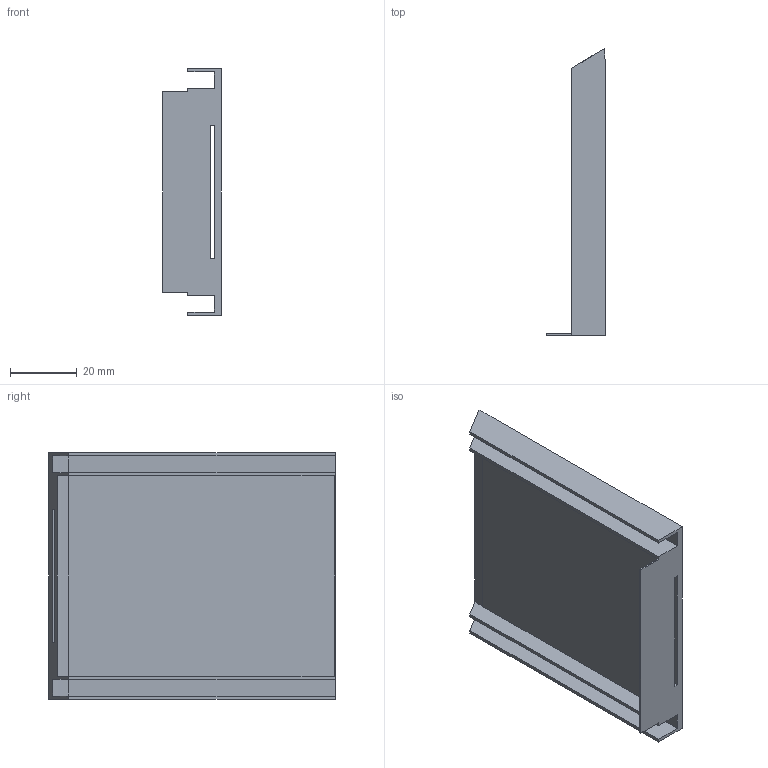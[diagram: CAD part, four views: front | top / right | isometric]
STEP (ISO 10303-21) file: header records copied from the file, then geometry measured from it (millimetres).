
FILE_DESCRIPTION(('STEP AP203'), '1');
FILE_NAME('ðåçîíàòîð 6', '', ('UNSPECIFIED'), ('UNSPECIFIED'), 'ASCON STEP Converter 1.3', 'ASCON Math Kernel', '');
FILE_SCHEMA(('CONFIG_CONTROL_DESIGN'));
Length unit declared in the file: millimetre
Bounding box: 17.5 x 85.96 x 74 mm (x, y, z)
Volume: 24140.5 mm3; surface area: 26845 mm2
Topology: 1 solids, 1 shells, 32 faces, 88 edges, 58 vertices
Faces by surface type: plane 26, cylinder 6
Entity records: 1312 total; most frequent: CARTESIAN_POINT 179, ORIENTED_EDGE 176, DIRECTION 166, EDGE_CURVE 88, LINE 76, VECTOR 76, VERTEX_POINT 58, AXIS2_PLACEMENT_3D 45
